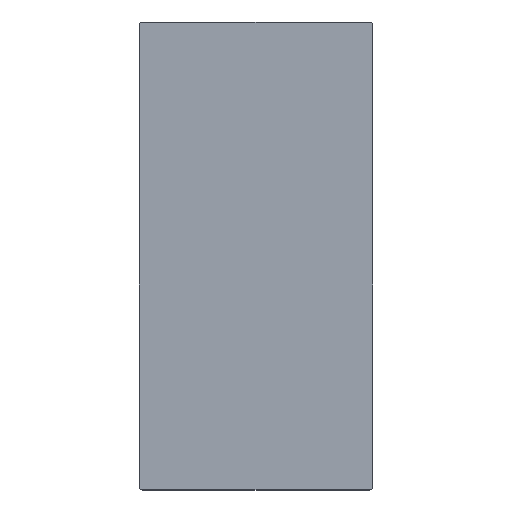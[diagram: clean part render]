
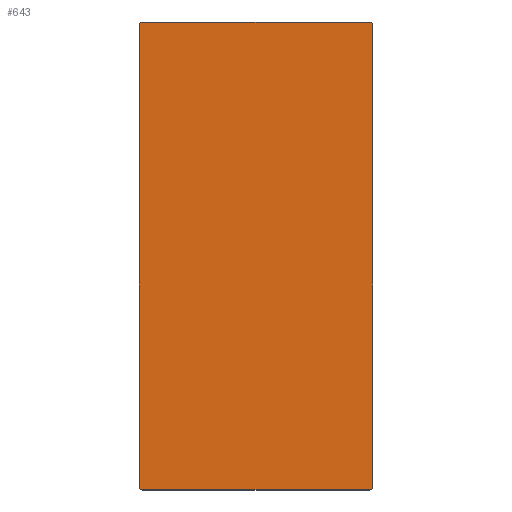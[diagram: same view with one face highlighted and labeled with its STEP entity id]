
A CAD part, top view. The second image highlights one B-rep face of the part: STEP entity #643.
In plain terms, the highlighted planar face has unit normal (0, 0, 1).
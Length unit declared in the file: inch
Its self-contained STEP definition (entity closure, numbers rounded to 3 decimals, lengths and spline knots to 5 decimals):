
#30=PLANE('',#718);
#57=FACE_OUTER_BOUND('',#107,.T.);
#107=EDGE_LOOP('',(#493,#494,#495,#496,#497,#498,#499,#500));
#147=LINE('',#996,#201);
#161=LINE('',#1057,#215);
#163=LINE('',#1060,#217);
#165=LINE('',#1067,#219);
#201=VECTOR('',#783,0.3937);
#215=VECTOR('',#835,0.3937);
#217=VECTOR('',#839,0.3937);
#219=VECTOR('',#847,0.3937);
#251=CIRCLE('',#692,0.125);
#268=CIRCLE('',#712,0.125);
#269=CIRCLE('',#716,0.125);
#270=CIRCLE('',#719,0.125);
#287=VERTEX_POINT('',#983);
#288=VERTEX_POINT('',#984);
#292=VERTEX_POINT('',#994);
#318=VERTEX_POINT('',#1050);
#319=VERTEX_POINT('',#1051);
#320=VERTEX_POINT('',#1056);
#321=VERTEX_POINT('',#1062);
#322=VERTEX_POINT('',#1066);
#347=EDGE_CURVE('',#287,#288,#251,.T.);
#353=EDGE_CURVE('',#287,#292,#147,.F.);
#380=EDGE_CURVE('',#318,#319,#268,.T.);
#383=EDGE_CURVE('',#320,#319,#161,.F.);
#385=EDGE_CURVE('',#318,#288,#163,.F.);
#386=EDGE_CURVE('',#320,#321,#269,.T.);
#388=EDGE_CURVE('',#322,#321,#165,.F.);
#390=EDGE_CURVE('',#322,#292,#270,.T.);
#493=ORIENTED_EDGE('',*,*,#347,.F.);
#494=ORIENTED_EDGE('',*,*,#353,.T.);
#495=ORIENTED_EDGE('',*,*,#390,.F.);
#496=ORIENTED_EDGE('',*,*,#388,.T.);
#497=ORIENTED_EDGE('',*,*,#386,.F.);
#498=ORIENTED_EDGE('',*,*,#383,.T.);
#499=ORIENTED_EDGE('',*,*,#380,.F.);
#500=ORIENTED_EDGE('',*,*,#385,.T.);
#643=ADVANCED_FACE('',(#57),#30,.F.);
#692=AXIS2_PLACEMENT_3D('',#985,#773,#774);
#712=AXIS2_PLACEMENT_3D('',#1052,#829,#830);
#716=AXIS2_PLACEMENT_3D('',#1063,#842,#843);
#718=AXIS2_PLACEMENT_3D('',#1069,#849,#850);
#719=AXIS2_PLACEMENT_3D('',#1070,#851,#852);
#773=DIRECTION('center_axis',(0.,0.,-1.));
#774=DIRECTION('ref_axis',(0.707,-0.707,0.));
#783=DIRECTION('',(0.,-1.,0.));
#829=DIRECTION('center_axis',(0.,0.,-1.));
#830=DIRECTION('ref_axis',(-0.707,-0.707,0.));
#835=DIRECTION('',(0.,1.,0.));
#839=DIRECTION('',(-1.,0.,0.));
#842=DIRECTION('center_axis',(0.,0.,-1.));
#843=DIRECTION('ref_axis',(-0.707,0.707,0.));
#847=DIRECTION('',(1.,0.,0.));
#849=DIRECTION('center_axis',(0.,0.,-1.));
#850=DIRECTION('ref_axis',(0.,1.,0.));
#851=DIRECTION('center_axis',(0.,0.,-1.));
#852=DIRECTION('ref_axis',(0.707,0.707,0.));
#983=CARTESIAN_POINT('',(8.,-1.875,1.5));
#984=CARTESIAN_POINT('',(7.875,-2.,1.5));
#985=CARTESIAN_POINT('Origin',(7.875,-1.875,1.5));
#994=CARTESIAN_POINT('',(8.,13.875,1.5));
#996=CARTESIAN_POINT('',(8.,6.,1.5));
#1050=CARTESIAN_POINT('',(0.125,-2.,1.5));
#1051=CARTESIAN_POINT('',(0.,-1.875,1.5));
#1052=CARTESIAN_POINT('Origin',(0.125,-1.875,1.5));
#1056=CARTESIAN_POINT('',(0.,13.875,1.5));
#1057=CARTESIAN_POINT('',(0.,6.,1.5));
#1060=CARTESIAN_POINT('',(0.,-2.,1.5));
#1062=CARTESIAN_POINT('',(0.125,14.,1.5));
#1063=CARTESIAN_POINT('Origin',(0.125,13.875,1.5));
#1066=CARTESIAN_POINT('',(7.875,14.,1.5));
#1067=CARTESIAN_POINT('',(0.,14.,1.5));
#1069=CARTESIAN_POINT('Origin',(0.,12.,1.5));
#1070=CARTESIAN_POINT('Origin',(7.875,13.875,1.5));
